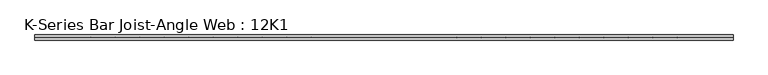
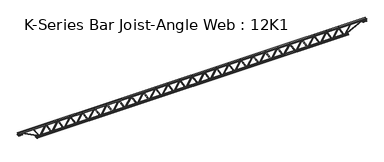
"""IFC4 building model written with IfcOpenShell, lengths in millimetres: beam geometry, K-Series Bar Joist-Angle Web : 12K1."""

from ifc_helpers import new_model, si_unit, frame, origin, place, context, project, spatial, polyline, outline, extrude, faceted_brep, source, transform, mapped, element, save


def k_series_bar_joist_angle_web_12k1_d835311e(model_context):
    return source(origin(), model_context, "Body", "SolidModel", [
        extrude(outline(polyline([(-4.7625, 4.7625), (-4.7625, 0.0), (-17.4625, 0.0), (-17.4625, 4.7625), (-4.7625, 4.7625)])), frame((3963.2177137, 0.0, -114.3), z_axis=(-0.49928484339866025, 0.0, 0.866437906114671), x_axis=(0.0, -1.0, 0.0)), (0.0, 0.0, 1.0), 263.8388722),
        extrude(outline(polyline([(-149.225, 3995.19775), (-130.175, 3995.19775), (-130.175, 3994.3522551), (149.225, 3833.3480051), (149.225, 3815.1435), (130.175, 3815.1435), (130.175, 3822.3389949), (-149.225, 3983.3432449), (-149.225, 3995.19775)])), frame((0.0, 0.0, 0.0), z_axis=(0.0, 1.0, 0.0), x_axis=(0.0, 0.0, 1.0)), (0.0, 0.0, 1.0), 4.7625),
        faceted_brep([(3647.78925, 0.0, -130.175), (3647.78925, 0.0, -149.225), (3647.78925, -4.7625, -149.225), (3647.78925, -4.7625, -130.175), (3648.6347449, 0.0, -130.175), (3809.6389949, 0.0, 149.225), (3827.8435, 0.0, 149.225), (3827.8435, 0.0, 130.175), (3820.6480051, 0.0, 130.175), (3659.6437551, 0.0, -149.225), (3659.6437551, -4.7625, -149.225), (3679.7692863, -4.7625, -114.3), (3675.6428758, -4.7625, -111.9221559), (3807.3736258, -4.7625, 116.6778441), (3811.5000363, -4.7625, 114.3), (3820.6480051, -4.7625, 130.175), (3827.8435, -4.7625, 130.175), (3827.8435, -4.7625, 149.225), (3809.6389949, -4.7625, 149.225), (3648.6347449, -4.7625, -130.175), (3811.5000363, -17.4625, 114.3), (3679.7692863, -17.4625, -114.3), (3675.6428758, -17.4625, -111.9221559), (3807.3736258, -17.4625, 116.6778441)], [[[0, 1, 2, 3]], [[1, 0, 4, 5, 6, 7, 8, 9]], [[2, 1, 9, 10]], [[3, 2, 10, 11, 12, 13, 14, 15, 16, 17, 18, 19]], [[0, 3, 19, 4]], [[9, 8, 15, 14, 20, 21, 11, 10]], [[5, 4, 19, 18]], [[7, 6, 17, 16]], [[8, 7, 16, 15]], [[6, 5, 18, 17]], [[21, 22, 12, 11]], [[20, 14, 13, 23]], [[22, 21, 20, 23]], [[12, 22, 23, 13]]]),
        extrude(outline(polyline([(-4.7625, 4.7625), (-4.7625, 0.0), (-17.4625, 0.0), (-17.4625, 4.7625), (-4.7625, 4.7625)])), frame((3615.8092137, 0.0, -114.3), z_axis=(-0.49928484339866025, 0.0, 0.866437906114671), x_axis=(0.0, -1.0, 0.0)), (0.0, 0.0, 1.0), 263.8388722),
        extrude(outline(polyline([(-149.225, 3647.78925), (-130.175, 3647.78925), (-130.175, 3646.9437551), (149.225, 3485.9395051), (149.225, 3467.735), (130.175, 3467.735), (130.175, 3474.9304949), (-149.225, 3635.9347449), (-149.225, 3647.78925)])), frame((0.0, 0.0, 0.0), z_axis=(0.0, 1.0, 0.0), x_axis=(0.0, 0.0, 1.0)), (0.0, 0.0, 1.0), 4.7625),
        faceted_brep([(3300.38075, 0.0, -130.175), (3300.38075, 0.0, -149.225), (3300.38075, -4.7625, -149.225), (3300.38075, -4.7625, -130.175), (3301.2262449, 0.0, -130.175), (3462.2304949, 0.0, 149.225), (3480.435, 0.0, 149.225), (3480.435, 0.0, 130.175), (3473.2395051, 0.0, 130.175), (3312.2352551, 0.0, -149.225), (3312.2352551, -4.7625, -149.225), (3332.3607863, -4.7625, -114.3), (3328.2343758, -4.7625, -111.9221559), (3459.9651258, -4.7625, 116.6778441), (3464.0915363, -4.7625, 114.3), (3473.2395051, -4.7625, 130.175), (3480.435, -4.7625, 130.175), (3480.435, -4.7625, 149.225), (3462.2304949, -4.7625, 149.225), (3301.2262449, -4.7625, -130.175), (3464.0915363, -17.4625, 114.3), (3332.3607863, -17.4625, -114.3), (3328.2343758, -17.4625, -111.9221559), (3459.9651258, -17.4625, 116.6778441)], [[[0, 1, 2, 3]], [[1, 0, 4, 5, 6, 7, 8, 9]], [[2, 1, 9, 10]], [[3, 2, 10, 11, 12, 13, 14, 15, 16, 17, 18, 19]], [[0, 3, 19, 4]], [[9, 8, 15, 14, 20, 21, 11, 10]], [[5, 4, 19, 18]], [[7, 6, 17, 16]], [[8, 7, 16, 15]], [[6, 5, 18, 17]], [[21, 22, 12, 11]], [[20, 14, 13, 23]], [[22, 21, 20, 23]], [[12, 22, 23, 13]]]),
        extrude(outline(polyline([(-4.7625, 4.7625), (-4.7625, 0.0), (-17.4625, 0.0), (-17.4625, 4.7625), (-4.7625, 4.7625)])), frame((3268.4007137, 0.0, -114.3), z_axis=(-0.49928484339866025, 0.0, 0.866437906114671), x_axis=(0.0, -1.0, 0.0)), (0.0, 0.0, 1.0), 263.8388722),
        extrude(outline(polyline([(-149.225, 3300.38075), (-130.175, 3300.38075), (-130.175, 3299.5352551), (149.225, 3138.5310051), (149.225, 3120.3265), (130.175, 3120.3265), (130.175, 3127.5219949), (-149.225, 3288.5262449), (-149.225, 3300.38075)])), frame((0.0, 0.0, 0.0), z_axis=(0.0, 1.0, 0.0), x_axis=(0.0, 0.0, 1.0)), (0.0, 0.0, 1.0), 4.7625),
        faceted_brep([(2952.97225, 0.0, -130.175), (2952.97225, 0.0, -149.225), (2952.97225, -4.7625, -149.225), (2952.97225, -4.7625, -130.175), (2953.8177449, 0.0, -130.175), (3114.8219949, 0.0, 149.225), (3133.0265, 0.0, 149.225), (3133.0265, 0.0, 130.175), (3125.8310051, 0.0, 130.175), (2964.8267551, 0.0, -149.225), (2964.8267551, -4.7625, -149.225), (2984.9522863, -4.7625, -114.3), (2980.8258758, -4.7625, -111.9221559), (3112.5566258, -4.7625, 116.6778441), (3116.6830363, -4.7625, 114.3), (3125.8310051, -4.7625, 130.175), (3133.0265, -4.7625, 130.175), (3133.0265, -4.7625, 149.225), (3114.8219949, -4.7625, 149.225), (2953.8177449, -4.7625, -130.175), (3116.6830363, -17.4625, 114.3), (2984.9522863, -17.4625, -114.3), (2980.8258758, -17.4625, -111.9221559), (3112.5566258, -17.4625, 116.6778441)], [[[0, 1, 2, 3]], [[1, 0, 4, 5, 6, 7, 8, 9]], [[2, 1, 9, 10]], [[3, 2, 10, 11, 12, 13, 14, 15, 16, 17, 18, 19]], [[0, 3, 19, 4]], [[9, 8, 15, 14, 20, 21, 11, 10]], [[5, 4, 19, 18]], [[7, 6, 17, 16]], [[8, 7, 16, 15]], [[6, 5, 18, 17]], [[21, 22, 12, 11]], [[20, 14, 13, 23]], [[22, 21, 20, 23]], [[12, 22, 23, 13]]]),
        extrude(outline(polyline([(-4.7625, 4.7625), (-4.7625, 0.0), (-17.4625, 0.0), (-17.4625, 4.7625), (-4.7625, 4.7625)])), frame((2920.9922137, 0.0, -114.3), z_axis=(-0.49928484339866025, 0.0, 0.866437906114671), x_axis=(0.0, -1.0, 0.0)), (0.0, 0.0, 1.0), 263.8388722),
        extrude(outline(polyline([(-149.225, 2952.97225), (-130.175, 2952.97225), (-130.175, 2952.1267551), (149.225, 2791.1225051), (149.225, 2772.918), (130.175, 2772.918), (130.175, 2780.1134949), (-149.225, 2941.1177449), (-149.225, 2952.97225)])), frame((0.0, 0.0, 0.0), z_axis=(0.0, 1.0, 0.0), x_axis=(0.0, 0.0, 1.0)), (0.0, 0.0, 1.0), 4.7625),
        faceted_brep([(2605.56375, 0.0, -130.175), (2605.56375, 0.0, -149.225), (2605.56375, -4.7625, -149.225), (2605.56375, -4.7625, -130.175), (2606.4092449, 0.0, -130.175), (2767.4134949, 0.0, 149.225), (2785.618, 0.0, 149.225), (2785.618, 0.0, 130.175), (2778.4225051, 0.0, 130.175), (2617.4182551, 0.0, -149.225), (2617.4182551, -4.7625, -149.225), (2637.5437863, -4.7625, -114.3), (2633.4173758, -4.7625, -111.9221559), (2765.1481258, -4.7625, 116.6778441), (2769.2745363, -4.7625, 114.3), (2778.4225051, -4.7625, 130.175), (2785.618, -4.7625, 130.175), (2785.618, -4.7625, 149.225), (2767.4134949, -4.7625, 149.225), (2606.4092449, -4.7625, -130.175), (2769.2745363, -17.4625, 114.3), (2637.5437863, -17.4625, -114.3), (2633.4173758, -17.4625, -111.9221559), (2765.1481258, -17.4625, 116.6778441)], [[[0, 1, 2, 3]], [[1, 0, 4, 5, 6, 7, 8, 9]], [[2, 1, 9, 10]], [[3, 2, 10, 11, 12, 13, 14, 15, 16, 17, 18, 19]], [[0, 3, 19, 4]], [[9, 8, 15, 14, 20, 21, 11, 10]], [[5, 4, 19, 18]], [[7, 6, 17, 16]], [[8, 7, 16, 15]], [[6, 5, 18, 17]], [[21, 22, 12, 11]], [[20, 14, 13, 23]], [[22, 21, 20, 23]], [[12, 22, 23, 13]]]),
        extrude(outline(polyline([(-4.7625, 4.7625), (-4.7625, 0.0), (-17.4625, 0.0), (-17.4625, 4.7625), (-4.7625, 4.7625)])), frame((2573.5837137, 0.0, -114.3), z_axis=(-0.49928484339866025, 0.0, 0.866437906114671), x_axis=(0.0, -1.0, 0.0)), (0.0, 0.0, 1.0), 263.8388722),
        extrude(outline(polyline([(-149.225, 2605.56375), (-130.175, 2605.56375), (-130.175, 2604.7182551), (149.225, 2443.7140051), (149.225, 2425.5095), (130.175, 2425.5095), (130.175, 2432.7049949), (-149.225, 2593.7092449), (-149.225, 2605.56375)])), frame((0.0, 0.0, 0.0), z_axis=(0.0, 1.0, 0.0), x_axis=(0.0, 0.0, 1.0)), (0.0, 0.0, 1.0), 4.7625),
        faceted_brep([(2258.15525, 0.0, -130.175), (2258.15525, 0.0, -149.225), (2258.15525, -4.7625, -149.225), (2258.15525, -4.7625, -130.175), (2259.0007449, 0.0, -130.175), (2420.0049949, 0.0, 149.225), (2438.2095, 0.0, 149.225), (2438.2095, 0.0, 130.175), (2431.0140051, 0.0, 130.175), (2270.0097551, 0.0, -149.225), (2270.0097551, -4.7625, -149.225), (2290.1352863, -4.7625, -114.3), (2286.0088758, -4.7625, -111.9221559), (2417.7396258, -4.7625, 116.6778441), (2421.8660363, -4.7625, 114.3), (2431.0140051, -4.7625, 130.175), (2438.2095, -4.7625, 130.175), (2438.2095, -4.7625, 149.225), (2420.0049949, -4.7625, 149.225), (2259.0007449, -4.7625, -130.175), (2421.8660363, -17.4625, 114.3), (2290.1352863, -17.4625, -114.3), (2286.0088758, -17.4625, -111.9221559), (2417.7396258, -17.4625, 116.6778441)], [[[0, 1, 2, 3]], [[1, 0, 4, 5, 6, 7, 8, 9]], [[2, 1, 9, 10]], [[3, 2, 10, 11, 12, 13, 14, 15, 16, 17, 18, 19]], [[0, 3, 19, 4]], [[9, 8, 15, 14, 20, 21, 11, 10]], [[5, 4, 19, 18]], [[7, 6, 17, 16]], [[8, 7, 16, 15]], [[6, 5, 18, 17]], [[21, 22, 12, 11]], [[20, 14, 13, 23]], [[22, 21, 20, 23]], [[12, 22, 23, 13]]]),
        extrude(outline(polyline([(-4.7625, 4.7625), (-4.7625, 0.0), (-17.4625, 0.0), (-17.4625, 4.7625), (-4.7625, 4.7625)])), frame((2226.1752137, 0.0, -114.3), z_axis=(-0.49928484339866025, 0.0, 0.866437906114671), x_axis=(0.0, -1.0, 0.0)), (0.0, 0.0, 1.0), 263.8388722),
        extrude(outline(polyline([(-149.225, 2258.15525), (-130.175, 2258.15525), (-130.175, 2257.3097551), (149.225, 2096.3055051), (149.225, 2078.101), (130.175, 2078.101), (130.175, 2085.2964949), (-149.225, 2246.3007449), (-149.225, 2258.15525)])), frame((0.0, 0.0, 0.0), z_axis=(0.0, 1.0, 0.0), x_axis=(0.0, 0.0, 1.0)), (0.0, 0.0, 1.0), 4.7625),
        faceted_brep([(1910.74675, 0.0, -130.175), (1910.74675, 0.0, -149.225), (1910.74675, -4.7625, -149.225), (1910.74675, -4.7625, -130.175), (1911.5922449, 0.0, -130.175), (2072.5964949, 0.0, 149.225), (2090.801, 0.0, 149.225), (2090.801, 0.0, 130.175), (2083.6055051, 0.0, 130.175), (1922.6012551, 0.0, -149.225), (1922.6012551, -4.7625, -149.225), (1942.7267863, -4.7625, -114.3), (1938.6003758, -4.7625, -111.9221559), (2070.3311258, -4.7625, 116.6778441), (2074.4575363, -4.7625, 114.3), (2083.6055051, -4.7625, 130.175), (2090.801, -4.7625, 130.175), (2090.801, -4.7625, 149.225), (2072.5964949, -4.7625, 149.225), (1911.5922449, -4.7625, -130.175), (2074.4575363, -17.4625, 114.3), (1942.7267863, -17.4625, -114.3), (1938.6003758, -17.4625, -111.9221559), (2070.3311258, -17.4625, 116.6778441)], [[[0, 1, 2, 3]], [[1, 0, 4, 5, 6, 7, 8, 9]], [[2, 1, 9, 10]], [[3, 2, 10, 11, 12, 13, 14, 15, 16, 17, 18, 19]], [[0, 3, 19, 4]], [[9, 8, 15, 14, 20, 21, 11, 10]], [[5, 4, 19, 18]], [[7, 6, 17, 16]], [[8, 7, 16, 15]], [[6, 5, 18, 17]], [[21, 22, 12, 11]], [[20, 14, 13, 23]], [[22, 21, 20, 23]], [[12, 22, 23, 13]]]),
        extrude(outline(polyline([(-4.7625, 4.7625), (-4.7625, 0.0), (-17.4625, 0.0), (-17.4625, 4.7625), (-4.7625, 4.7625)])), frame((1878.7667137, 0.0, -114.3), z_axis=(-0.49928484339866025, 0.0, 0.866437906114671), x_axis=(0.0, -1.0, 0.0)), (0.0, 0.0, 1.0), 263.8388722),
        extrude(outline(polyline([(-149.225, 1910.74675), (-130.175, 1910.74675), (-130.175, 1909.9012551), (149.225, 1748.8970051), (149.225, 1730.6925), (130.175, 1730.6925), (130.175, 1737.8879949), (-149.225, 1898.8922449), (-149.225, 1910.74675)])), frame((0.0, 0.0, 0.0), z_axis=(0.0, 1.0, 0.0), x_axis=(0.0, 0.0, 1.0)), (0.0, 0.0, 1.0), 4.7625),
        faceted_brep([(1563.33825, 0.0, -130.175), (1563.33825, 0.0, -149.225), (1563.33825, -4.7625, -149.225), (1563.33825, -4.7625, -130.175), (1564.1837449, 0.0, -130.175), (1725.1879949, 0.0, 149.225), (1743.3925, 0.0, 149.225), (1743.3925, 0.0, 130.175), (1736.1970051, 0.0, 130.175), (1575.1927551, 0.0, -149.225), (1575.1927551, -4.7625, -149.225), (1595.3182863, -4.7625, -114.3), (1591.1918758, -4.7625, -111.9221559), (1722.9226258, -4.7625, 116.6778441), (1727.0490363, -4.7625, 114.3), (1736.1970051, -4.7625, 130.175), (1743.3925, -4.7625, 130.175), (1743.3925, -4.7625, 149.225), (1725.1879949, -4.7625, 149.225), (1564.1837449, -4.7625, -130.175), (1727.0490363, -17.4625, 114.3), (1595.3182863, -17.4625, -114.3), (1591.1918758, -17.4625, -111.9221559), (1722.9226258, -17.4625, 116.6778441)], [[[0, 1, 2, 3]], [[1, 0, 4, 5, 6, 7, 8, 9]], [[2, 1, 9, 10]], [[3, 2, 10, 11, 12, 13, 14, 15, 16, 17, 18, 19]], [[0, 3, 19, 4]], [[9, 8, 15, 14, 20, 21, 11, 10]], [[5, 4, 19, 18]], [[7, 6, 17, 16]], [[8, 7, 16, 15]], [[6, 5, 18, 17]], [[21, 22, 12, 11]], [[20, 14, 13, 23]], [[22, 21, 20, 23]], [[12, 22, 23, 13]]]),
        extrude(outline(polyline([(-4.7625, 4.7625), (-4.7625, 0.0), (-17.4625, 0.0), (-17.4625, 4.7625), (-4.7625, 4.7625)])), frame((1531.3582137, 0.0, -114.3), z_axis=(-0.49928484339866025, 0.0, 0.866437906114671), x_axis=(0.0, -1.0, 0.0)), (0.0, 0.0, 1.0), 263.8388722),
        extrude(outline(polyline([(-149.225, 1563.33825), (-130.175, 1563.33825), (-130.175, 1562.4927551), (149.225, 1401.4885051), (149.225, 1383.284), (130.175, 1383.284), (130.175, 1390.4794949), (-149.225, 1551.4837449), (-149.225, 1563.33825)])), frame((0.0, 0.0, 0.0), z_axis=(0.0, 1.0, 0.0), x_axis=(0.0, 0.0, 1.0)), (0.0, 0.0, 1.0), 4.7625),
        faceted_brep([(1215.92975, 0.0, -130.175), (1215.92975, 0.0, -149.225), (1215.92975, -4.7625, -149.225), (1215.92975, -4.7625, -130.175), (1216.7752449, 0.0, -130.175), (1377.7794949, 0.0, 149.225), (1395.984, 0.0, 149.225), (1395.984, 0.0, 130.175), (1388.7885051, 0.0, 130.175), (1227.7842551, 0.0, -149.225), (1227.7842551, -4.7625, -149.225), (1247.9097863, -4.7625, -114.3), (1243.7833758, -4.7625, -111.9221559), (1375.5141258, -4.7625, 116.6778441), (1379.6405363, -4.7625, 114.3), (1388.7885051, -4.7625, 130.175), (1395.984, -4.7625, 130.175), (1395.984, -4.7625, 149.225), (1377.7794949, -4.7625, 149.225), (1216.7752449, -4.7625, -130.175), (1379.6405363, -17.4625, 114.3), (1247.9097863, -17.4625, -114.3), (1243.7833758, -17.4625, -111.9221559), (1375.5141258, -17.4625, 116.6778441)], [[[0, 1, 2, 3]], [[1, 0, 4, 5, 6, 7, 8, 9]], [[2, 1, 9, 10]], [[3, 2, 10, 11, 12, 13, 14, 15, 16, 17, 18, 19]], [[0, 3, 19, 4]], [[9, 8, 15, 14, 20, 21, 11, 10]], [[5, 4, 19, 18]], [[7, 6, 17, 16]], [[8, 7, 16, 15]], [[6, 5, 18, 17]], [[21, 22, 12, 11]], [[20, 14, 13, 23]], [[22, 21, 20, 23]], [[12, 22, 23, 13]]]),
        extrude(outline(polyline([(-4.7625, 4.7625), (-4.7625, 0.0), (-17.4625, 0.0), (-17.4625, 4.7625), (-4.7625, 4.7625)])), frame((1183.9497137, 0.0, -114.3), z_axis=(-0.49928484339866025, 0.0, 0.866437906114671), x_axis=(0.0, -1.0, 0.0)), (0.0, 0.0, 1.0), 263.8388722),
        extrude(outline(polyline([(-149.225, 1215.92975), (-130.175, 1215.92975), (-130.175, 1215.0842551), (149.225, 1054.0800051), (149.225, 1035.8755), (130.175, 1035.8755), (130.175, 1043.0709949), (-149.225, 1204.0752449), (-149.225, 1215.92975)])), frame((0.0, 0.0, 0.0), z_axis=(0.0, 1.0, 0.0), x_axis=(0.0, 0.0, 1.0)), (0.0, 0.0, 1.0), 4.7625),
        faceted_brep([(868.52125, 0.0, -130.175), (868.52125, 0.0, -149.225), (868.52125, -4.7625, -149.225), (868.52125, -4.7625, -130.175), (869.3667449, 0.0, -130.175), (1030.3709949, 0.0, 149.225), (1048.5755, 0.0, 149.225), (1048.5755, 0.0, 130.175), (1041.3800051, 0.0, 130.175), (880.3757551, 0.0, -149.225), (880.3757551, -4.7625, -149.225), (900.5012863, -4.7625, -114.3), (896.3748758, -4.7625, -111.9221559), (1028.1056258, -4.7625, 116.6778441), (1032.2320363, -4.7625, 114.3), (1041.3800051, -4.7625, 130.175), (1048.5755, -4.7625, 130.175), (1048.5755, -4.7625, 149.225), (1030.3709949, -4.7625, 149.225), (869.3667449, -4.7625, -130.175), (1032.2320363, -17.4625, 114.3), (900.5012863, -17.4625, -114.3), (896.3748758, -17.4625, -111.9221559), (1028.1056258, -17.4625, 116.6778441)], [[[0, 1, 2, 3]], [[1, 0, 4, 5, 6, 7, 8, 9]], [[2, 1, 9, 10]], [[3, 2, 10, 11, 12, 13, 14, 15, 16, 17, 18, 19]], [[0, 3, 19, 4]], [[9, 8, 15, 14, 20, 21, 11, 10]], [[5, 4, 19, 18]], [[7, 6, 17, 16]], [[8, 7, 16, 15]], [[6, 5, 18, 17]], [[21, 22, 12, 11]], [[20, 14, 13, 23]], [[22, 21, 20, 23]], [[12, 22, 23, 13]]]),
        extrude(outline(polyline([(-4.7625, 4.7625), (-4.7625, 0.0), (-17.4625, 0.0), (-17.4625, 4.7625), (-4.7625, 4.7625)])), frame((836.5412137, 0.0, -114.3), z_axis=(-0.49928484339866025, 0.0, 0.866437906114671), x_axis=(0.0, -1.0, 0.0)), (0.0, 0.0, 1.0), 263.8388722),
        extrude(outline(polyline([(-149.225, 868.52125), (-130.175, 868.52125), (-130.175, 867.6757551), (149.225, 706.6715051), (149.225, 688.467), (130.175, 688.467), (130.175, 695.6624949), (-149.225, 856.6667449), (-149.225, 868.52125)])), frame((0.0, 0.0, 0.0), z_axis=(0.0, 1.0, 0.0), x_axis=(0.0, 0.0, 1.0)), (0.0, 0.0, 1.0), 4.7625),
        faceted_brep([(521.11275, 0.0, -130.175), (521.11275, 0.0, -149.225), (521.11275, -4.7625, -149.225), (521.11275, -4.7625, -130.175), (521.9582449, 0.0, -130.175), (682.9624949, 0.0, 149.225), (701.167, 0.0, 149.225), (701.167, 0.0, 130.175), (693.9715051, 0.0, 130.175), (532.9672551, 0.0, -149.225), (532.9672551, -4.7625, -149.225), (553.0927863, -4.7625, -114.3), (548.9663758, -4.7625, -111.9221559), (680.6971258, -4.7625, 116.6778441), (684.8235363, -4.7625, 114.3), (693.9715051, -4.7625, 130.175), (701.167, -4.7625, 130.175), (701.167, -4.7625, 149.225), (682.9624949, -4.7625, 149.225), (521.9582449, -4.7625, -130.175), (684.8235363, -17.4625, 114.3), (553.0927863, -17.4625, -114.3), (548.9663758, -17.4625, -111.9221559), (680.6971258, -17.4625, 116.6778441)], [[[0, 1, 2, 3]], [[1, 0, 4, 5, 6, 7, 8, 9]], [[2, 1, 9, 10]], [[3, 2, 10, 11, 12, 13, 14, 15, 16, 17, 18, 19]], [[0, 3, 19, 4]], [[9, 8, 15, 14, 20, 21, 11, 10]], [[5, 4, 19, 18]], [[7, 6, 17, 16]], [[8, 7, 16, 15]], [[6, 5, 18, 17]], [[21, 22, 12, 11]], [[20, 14, 13, 23]], [[22, 21, 20, 23]], [[12, 22, 23, 13]]]),
        extrude(outline(polyline([(-4.7625, 4.7625), (-4.7625, 0.0), (-17.4625, 0.0), (-17.4625, 4.7625), (-4.7625, 4.7625)])), frame((489.1327137, 0.0, -114.3), z_axis=(-0.49928484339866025, 0.0, 0.866437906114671), x_axis=(0.0, -1.0, 0.0)), (0.0, 0.0, 1.0), 263.8388722),
        extrude(outline(polyline([(-149.225, 521.11275), (-130.175, 521.11275), (-130.175, 520.2672551), (149.225, 359.2630051), (149.225, 341.0585), (130.175, 341.0585), (130.175, 348.2539949), (-149.225, 509.2582449), (-149.225, 521.11275)])), frame((0.0, 0.0, 0.0), z_axis=(0.0, 1.0, 0.0), x_axis=(0.0, 0.0, 1.0)), (0.0, 0.0, 1.0), 4.7625),
        faceted_brep([(173.70425, 0.0, -130.175), (173.70425, 0.0, -149.225), (173.70425, -4.7625, -149.225), (173.70425, -4.7625, -130.175), (174.5497449, 0.0, -130.175), (335.5539949, 0.0, 149.225), (353.7585, 0.0, 149.225), (353.7585, 0.0, 130.175), (346.5630051, 0.0, 130.175), (185.5587551, 0.0, -149.225), (185.5587551, -4.7625, -149.225), (205.6842863, -4.7625, -114.3), (201.5578758, -4.7625, -111.9221559), (333.2886258, -4.7625, 116.6778441), (337.4150363, -4.7625, 114.3), (346.5630051, -4.7625, 130.175), (353.7585, -4.7625, 130.175), (353.7585, -4.7625, 149.225), (335.5539949, -4.7625, 149.225), (174.5497449, -4.7625, -130.175), (337.4150363, -17.4625, 114.3), (205.6842863, -17.4625, -114.3), (201.5578758, -17.4625, -111.9221559), (333.2886258, -17.4625, 116.6778441)], [[[0, 1, 2, 3]], [[1, 0, 4, 5, 6, 7, 8, 9]], [[2, 1, 9, 10]], [[3, 2, 10, 11, 12, 13, 14, 15, 16, 17, 18, 19]], [[0, 3, 19, 4]], [[9, 8, 15, 14, 20, 21, 11, 10]], [[5, 4, 19, 18]], [[7, 6, 17, 16]], [[8, 7, 16, 15]], [[6, 5, 18, 17]], [[21, 22, 12, 11]], [[20, 14, 13, 23]], [[22, 21, 20, 23]], [[12, 22, 23, 13]]]),
        extrude(outline(polyline([(-4.7625, 4.7625), (-4.7625, 0.0), (-17.4625, 0.0), (-17.4625, 4.7625), (-4.7625, 4.7625)])), frame((141.7242137, 0.0, -114.3), z_axis=(-0.49928484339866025, 0.0, 0.866437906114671), x_axis=(0.0, -1.0, 0.0)), (0.0, 0.0, 1.0), 263.8388722),
        extrude(outline(polyline([(-149.225, 173.70425), (-130.175, 173.70425), (-130.175, 172.8587551), (149.225, 11.8545051), (149.225, -6.35), (130.175, -6.35), (130.175, 0.8454949), (-149.225, 161.8497449), (-149.225, 173.70425)])), frame((0.0, 0.0, 0.0), z_axis=(0.0, 1.0, 0.0), x_axis=(0.0, 0.0, 1.0)), (0.0, 0.0, 1.0), 4.7625),
        faceted_brep([(-173.70425, 0.0, -130.175), (-173.70425, 0.0, -149.225), (-173.70425, -4.7625, -149.225), (-173.70425, -4.7625, -130.175), (-172.8587551, 0.0, -130.175), (-11.8545051, 0.0, 149.225), (6.35, 0.0, 149.225), (6.35, 0.0, 130.175), (-0.8454949, 0.0, 130.175), (-161.8497449, 0.0, -149.225), (-161.8497449, -4.7625, -149.225), (-141.7242137, -4.7625, -114.3), (-145.8506242, -4.7625, -111.9221559), (-14.1198742, -4.7625, 116.6778441), (-9.9934637, -4.7625, 114.3), (-0.8454949, -4.7625, 130.175), (6.35, -4.7625, 130.175), (6.35, -4.7625, 149.225), (-11.8545051, -4.7625, 149.225), (-172.8587551, -4.7625, -130.175), (-9.9934637, -17.4625, 114.3), (-141.7242137, -17.4625, -114.3), (-145.8506242, -17.4625, -111.9221559), (-14.1198742, -17.4625, 116.6778441)], [[[0, 1, 2, 3]], [[1, 0, 4, 5, 6, 7, 8, 9]], [[2, 1, 9, 10]], [[3, 2, 10, 11, 12, 13, 14, 15, 16, 17, 18, 19]], [[0, 3, 19, 4]], [[9, 8, 15, 14, 20, 21, 11, 10]], [[5, 4, 19, 18]], [[7, 6, 17, 16]], [[8, 7, 16, 15]], [[6, 5, 18, 17]], [[21, 22, 12, 11]], [[20, 14, 13, 23]], [[22, 21, 20, 23]], [[12, 22, 23, 13]]]),
        extrude(outline(polyline([(-4.7625, 4.7625), (-4.7625, 0.0), (-17.4625, 0.0), (-17.4625, 4.7625), (-4.7625, 4.7625)])), frame((-205.6842863, 0.0, -114.3), z_axis=(-0.49928484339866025, 0.0, 0.866437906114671), x_axis=(0.0, -1.0, 0.0)), (0.0, 0.0, 1.0), 263.8388722),
        extrude(outline(polyline([(-149.225, -173.70425), (-130.175, -173.70425), (-130.175, -174.5497449), (149.225, -335.5539949), (149.225, -353.7585), (130.175, -353.7585), (130.175, -346.5630051), (-149.225, -185.5587551), (-149.225, -173.70425)])), frame((0.0, 0.0, 0.0), z_axis=(0.0, 1.0, 0.0), x_axis=(0.0, 0.0, 1.0)), (0.0, 0.0, 1.0), 4.7625),
        faceted_brep([(-521.11275, 0.0, -130.175), (-521.11275, 0.0, -149.225), (-521.11275, -4.7625, -149.225), (-521.11275, -4.7625, -130.175), (-520.2672551, 0.0, -130.175), (-359.2630051, 0.0, 149.225), (-341.0585, 0.0, 149.225), (-341.0585, 0.0, 130.175), (-348.2539949, 0.0, 130.175), (-509.2582449, 0.0, -149.225), (-509.2582449, -4.7625, -149.225), (-489.1327137, -4.7625, -114.3), (-493.2591242, -4.7625, -111.9221559), (-361.5283742, -4.7625, 116.6778441), (-357.4019637, -4.7625, 114.3), (-348.2539949, -4.7625, 130.175), (-341.0585, -4.7625, 130.175), (-341.0585, -4.7625, 149.225), (-359.2630051, -4.7625, 149.225), (-520.2672551, -4.7625, -130.175), (-357.4019637, -17.4625, 114.3), (-489.1327137, -17.4625, -114.3), (-493.2591242, -17.4625, -111.9221559), (-361.5283742, -17.4625, 116.6778441)], [[[0, 1, 2, 3]], [[1, 0, 4, 5, 6, 7, 8, 9]], [[2, 1, 9, 10]], [[3, 2, 10, 11, 12, 13, 14, 15, 16, 17, 18, 19]], [[0, 3, 19, 4]], [[9, 8, 15, 14, 20, 21, 11, 10]], [[5, 4, 19, 18]], [[7, 6, 17, 16]], [[8, 7, 16, 15]], [[6, 5, 18, 17]], [[21, 22, 12, 11]], [[20, 14, 13, 23]], [[22, 21, 20, 23]], [[12, 22, 23, 13]]]),
        extrude(outline(polyline([(-4.7625, 4.7625), (-4.7625, 0.0), (-17.4625, 0.0), (-17.4625, 4.7625), (-4.7625, 4.7625)])), frame((-553.0927863, 0.0, -114.3), z_axis=(-0.49928484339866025, 0.0, 0.866437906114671), x_axis=(0.0, -1.0, 0.0)), (0.0, 0.0, 1.0), 263.8388722),
        extrude(outline(polyline([(-149.225, -521.11275), (-130.175, -521.11275), (-130.175, -521.9582449), (149.225, -682.9624949), (149.225, -701.167), (130.175, -701.167), (130.175, -693.9715051), (-149.225, -532.9672551), (-149.225, -521.11275)])), frame((0.0, 0.0, 0.0), z_axis=(0.0, 1.0, 0.0), x_axis=(0.0, 0.0, 1.0)), (0.0, 0.0, 1.0), 4.7625),
        faceted_brep([(-868.52125, 0.0, -130.175), (-868.52125, 0.0, -149.225), (-868.52125, -4.7625, -149.225), (-868.52125, -4.7625, -130.175), (-867.6757551, 0.0, -130.175), (-706.6715051, 0.0, 149.225), (-688.467, 0.0, 149.225), (-688.467, 0.0, 130.175), (-695.6624949, 0.0, 130.175), (-856.6667449, 0.0, -149.225), (-856.6667449, -4.7625, -149.225), (-836.5412137, -4.7625, -114.3), (-840.6676242, -4.7625, -111.9221559), (-708.9368742, -4.7625, 116.6778441), (-704.8104637, -4.7625, 114.3), (-695.6624949, -4.7625, 130.175), (-688.467, -4.7625, 130.175), (-688.467, -4.7625, 149.225), (-706.6715051, -4.7625, 149.225), (-867.6757551, -4.7625, -130.175), (-704.8104637, -17.4625, 114.3), (-836.5412137, -17.4625, -114.3), (-840.6676242, -17.4625, -111.9221559), (-708.9368742, -17.4625, 116.6778441)], [[[0, 1, 2, 3]], [[1, 0, 4, 5, 6, 7, 8, 9]], [[2, 1, 9, 10]], [[3, 2, 10, 11, 12, 13, 14, 15, 16, 17, 18, 19]], [[0, 3, 19, 4]], [[9, 8, 15, 14, 20, 21, 11, 10]], [[5, 4, 19, 18]], [[7, 6, 17, 16]], [[8, 7, 16, 15]], [[6, 5, 18, 17]], [[21, 22, 12, 11]], [[20, 14, 13, 23]], [[22, 21, 20, 23]], [[12, 22, 23, 13]]]),
        extrude(outline(polyline([(-4.7625, 4.7625), (-4.7625, 0.0), (-17.4625, 0.0), (-17.4625, 4.7625), (-4.7625, 4.7625)])), frame((-900.5012863, 0.0, -114.3), z_axis=(-0.49928484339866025, 0.0, 0.866437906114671), x_axis=(0.0, -1.0, 0.0)), (0.0, 0.0, 1.0), 263.8388722),
        extrude(outline(polyline([(-149.225, -868.52125), (-130.175, -868.52125), (-130.175, -869.3667449), (149.225, -1030.3709949), (149.225, -1048.5755), (130.175, -1048.5755), (130.175, -1041.3800051), (-149.225, -880.3757551), (-149.225, -868.52125)])), frame((0.0, 0.0, 0.0), z_axis=(0.0, 1.0, 0.0), x_axis=(0.0, 0.0, 1.0)), (0.0, 0.0, 1.0), 4.7625),
        faceted_brep([(-1215.92975, 0.0, -130.175), (-1215.92975, 0.0, -149.225), (-1215.92975, -4.7625, -149.225), (-1215.92975, -4.7625, -130.175), (-1215.0842551, 0.0, -130.175), (-1054.0800051, 0.0, 149.225), (-1035.8755, 0.0, 149.225), (-1035.8755, 0.0, 130.175), (-1043.0709949, 0.0, 130.175), (-1204.0752449, 0.0, -149.225), (-1204.0752449, -4.7625, -149.225), (-1183.9497137, -4.7625, -114.3), (-1188.0761242, -4.7625, -111.9221559), (-1056.3453742, -4.7625, 116.6778441), (-1052.2189637, -4.7625, 114.3), (-1043.0709949, -4.7625, 130.175), (-1035.8755, -4.7625, 130.175), (-1035.8755, -4.7625, 149.225), (-1054.0800051, -4.7625, 149.225), (-1215.0842551, -4.7625, -130.175), (-1052.2189637, -17.4625, 114.3), (-1183.9497137, -17.4625, -114.3), (-1188.0761242, -17.4625, -111.9221559), (-1056.3453742, -17.4625, 116.6778441)], [[[0, 1, 2, 3]], [[1, 0, 4, 5, 6, 7, 8, 9]], [[2, 1, 9, 10]], [[3, 2, 10, 11, 12, 13, 14, 15, 16, 17, 18, 19]], [[0, 3, 19, 4]], [[9, 8, 15, 14, 20, 21, 11, 10]], [[5, 4, 19, 18]], [[7, 6, 17, 16]], [[8, 7, 16, 15]], [[6, 5, 18, 17]], [[21, 22, 12, 11]], [[20, 14, 13, 23]], [[22, 21, 20, 23]], [[12, 22, 23, 13]]]),
        extrude(outline(polyline([(-4.7625, 4.7625), (-4.7625, 0.0), (-17.4625, 0.0), (-17.4625, 4.7625), (-4.7625, 4.7625)])), frame((-1247.9097863, 0.0, -114.3), z_axis=(-0.49928484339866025, 0.0, 0.866437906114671), x_axis=(0.0, -1.0, 0.0)), (0.0, 0.0, 1.0), 263.8388722),
        extrude(outline(polyline([(-149.225, -1215.92975), (-130.175, -1215.92975), (-130.175, -1216.7752449), (149.225, -1377.7794949), (149.225, -1395.984), (130.175, -1395.984), (130.175, -1388.7885051), (-149.225, -1227.7842551), (-149.225, -1215.92975)])), frame((0.0, 0.0, 0.0), z_axis=(0.0, 1.0, 0.0), x_axis=(0.0, 0.0, 1.0)), (0.0, 0.0, 1.0), 4.7625),
        faceted_brep([(-1563.33825, 0.0, -130.175), (-1563.33825, 0.0, -149.225), (-1563.33825, -4.7625, -149.225), (-1563.33825, -4.7625, -130.175), (-1562.4927551, 0.0, -130.175), (-1401.4885051, 0.0, 149.225), (-1383.284, 0.0, 149.225), (-1383.284, 0.0, 130.175), (-1390.4794949, 0.0, 130.175), (-1551.4837449, 0.0, -149.225), (-1551.4837449, -4.7625, -149.225), (-1531.3582137, -4.7625, -114.3), (-1535.4846242, -4.7625, -111.9221559), (-1403.7538742, -4.7625, 116.6778441), (-1399.6274637, -4.7625, 114.3), (-1390.4794949, -4.7625, 130.175), (-1383.284, -4.7625, 130.175), (-1383.284, -4.7625, 149.225), (-1401.4885051, -4.7625, 149.225), (-1562.4927551, -4.7625, -130.175), (-1399.6274637, -17.4625, 114.3), (-1531.3582137, -17.4625, -114.3), (-1535.4846242, -17.4625, -111.9221559), (-1403.7538742, -17.4625, 116.6778441)], [[[0, 1, 2, 3]], [[1, 0, 4, 5, 6, 7, 8, 9]], [[2, 1, 9, 10]], [[3, 2, 10, 11, 12, 13, 14, 15, 16, 17, 18, 19]], [[0, 3, 19, 4]], [[9, 8, 15, 14, 20, 21, 11, 10]], [[5, 4, 19, 18]], [[7, 6, 17, 16]], [[8, 7, 16, 15]], [[6, 5, 18, 17]], [[21, 22, 12, 11]], [[20, 14, 13, 23]], [[22, 21, 20, 23]], [[12, 22, 23, 13]]]),
        extrude(outline(polyline([(-4.7625, 4.7625), (-4.7625, 0.0), (-17.4625, 0.0), (-17.4625, 4.7625), (-4.7625, 4.7625)])), frame((-1595.3182863, 0.0, -114.3), z_axis=(-0.49928484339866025, 0.0, 0.866437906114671), x_axis=(0.0, -1.0, 0.0)), (0.0, 0.0, 1.0), 263.8388722),
        extrude(outline(polyline([(-149.225, -1563.33825), (-130.175, -1563.33825), (-130.175, -1564.1837449), (149.225, -1725.1879949), (149.225, -1743.3925), (130.175, -1743.3925), (130.175, -1736.1970051), (-149.225, -1575.1927551), (-149.225, -1563.33825)])), frame((0.0, 0.0, 0.0), z_axis=(0.0, 1.0, 0.0), x_axis=(0.0, 0.0, 1.0)), (0.0, 0.0, 1.0), 4.7625),
        faceted_brep([(-1910.74675, 0.0, -130.175), (-1910.74675, 0.0, -149.225), (-1910.74675, -4.7625, -149.225), (-1910.74675, -4.7625, -130.175), (-1909.9012551, 0.0, -130.175), (-1748.8970051, 0.0, 149.225), (-1730.6925, 0.0, 149.225), (-1730.6925, 0.0, 130.175), (-1737.8879949, 0.0, 130.175), (-1898.8922449, 0.0, -149.225), (-1898.8922449, -4.7625, -149.225), (-1878.7667137, -4.7625, -114.3), (-1882.8931242, -4.7625, -111.9221559), (-1751.1623742, -4.7625, 116.6778441), (-1747.0359637, -4.7625, 114.3), (-1737.8879949, -4.7625, 130.175), (-1730.6925, -4.7625, 130.175), (-1730.6925, -4.7625, 149.225), (-1748.8970051, -4.7625, 149.225), (-1909.9012551, -4.7625, -130.175), (-1747.0359637, -17.4625, 114.3), (-1878.7667137, -17.4625, -114.3), (-1882.8931242, -17.4625, -111.9221559), (-1751.1623742, -17.4625, 116.6778441)], [[[0, 1, 2, 3]], [[1, 0, 4, 5, 6, 7, 8, 9]], [[2, 1, 9, 10]], [[3, 2, 10, 11, 12, 13, 14, 15, 16, 17, 18, 19]], [[0, 3, 19, 4]], [[9, 8, 15, 14, 20, 21, 11, 10]], [[5, 4, 19, 18]], [[7, 6, 17, 16]], [[8, 7, 16, 15]], [[6, 5, 18, 17]], [[21, 22, 12, 11]], [[20, 14, 13, 23]], [[22, 21, 20, 23]], [[12, 22, 23, 13]]]),
        extrude(outline(polyline([(-4.7625, 4.7625), (-4.7625, 0.0), (-17.4625, 0.0), (-17.4625, 4.7625), (-4.7625, 4.7625)])), frame((-1942.7267863, 0.0, -114.3), z_axis=(-0.49928484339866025, 0.0, 0.866437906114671), x_axis=(0.0, -1.0, 0.0)), (0.0, 0.0, 1.0), 263.8388722),
        extrude(outline(polyline([(-149.225, -1910.74675), (-130.175, -1910.74675), (-130.175, -1911.5922449), (149.225, -2072.5964949), (149.225, -2090.801), (130.175, -2090.801), (130.175, -2083.6055051), (-149.225, -1922.6012551), (-149.225, -1910.74675)])), frame((0.0, 0.0, 0.0), z_axis=(0.0, 1.0, 0.0), x_axis=(0.0, 0.0, 1.0)), (0.0, 0.0, 1.0), 4.7625),
        faceted_brep([(-2258.15525, 0.0, -130.175), (-2258.15525, 0.0, -149.225), (-2258.15525, -4.7625, -149.225), (-2258.15525, -4.7625, -130.175), (-2257.3097551, 0.0, -130.175), (-2096.3055051, 0.0, 149.225), (-2078.101, 0.0, 149.225), (-2078.101, 0.0, 130.175), (-2085.2964949, 0.0, 130.175), (-2246.3007449, 0.0, -149.225), (-2246.3007449, -4.7625, -149.225), (-2226.1752137, -4.7625, -114.3), (-2230.3016242, -4.7625, -111.9221559), (-2098.5708742, -4.7625, 116.6778441), (-2094.4444637, -4.7625, 114.3), (-2085.2964949, -4.7625, 130.175), (-2078.101, -4.7625, 130.175), (-2078.101, -4.7625, 149.225), (-2096.3055051, -4.7625, 149.225), (-2257.3097551, -4.7625, -130.175), (-2094.4444637, -17.4625, 114.3), (-2226.1752137, -17.4625, -114.3), (-2230.3016242, -17.4625, -111.9221559), (-2098.5708742, -17.4625, 116.6778441)], [[[0, 1, 2, 3]], [[1, 0, 4, 5, 6, 7, 8, 9]], [[2, 1, 9, 10]], [[3, 2, 10, 11, 12, 13, 14, 15, 16, 17, 18, 19]], [[0, 3, 19, 4]], [[9, 8, 15, 14, 20, 21, 11, 10]], [[5, 4, 19, 18]], [[7, 6, 17, 16]], [[8, 7, 16, 15]], [[6, 5, 18, 17]], [[21, 22, 12, 11]], [[20, 14, 13, 23]], [[22, 21, 20, 23]], [[12, 22, 23, 13]]]),
        extrude(outline(polyline([(-4.7625, 4.7625), (-4.7625, 0.0), (-17.4625, 0.0), (-17.4625, 4.7625), (-4.7625, 4.7625)])), frame((-2290.1352863, 0.0, -114.3), z_axis=(-0.49928484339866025, 0.0, 0.866437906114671), x_axis=(0.0, -1.0, 0.0)), (0.0, 0.0, 1.0), 263.8388722),
        extrude(outline(polyline([(-149.225, -2258.15525), (-130.175, -2258.15525), (-130.175, -2259.0007449), (149.225, -2420.0049949), (149.225, -2438.2095), (130.175, -2438.2095), (130.175, -2431.0140051), (-149.225, -2270.0097551), (-149.225, -2258.15525)])), frame((0.0, 0.0, 0.0), z_axis=(0.0, 1.0, 0.0), x_axis=(0.0, 0.0, 1.0)), (0.0, 0.0, 1.0), 4.7625),
        faceted_brep([(-2605.56375, 0.0, -130.175), (-2605.56375, 0.0, -149.225), (-2605.56375, -4.7625, -149.225), (-2605.56375, -4.7625, -130.175), (-2604.7182551, 0.0, -130.175), (-2443.7140051, 0.0, 149.225), (-2425.5095, 0.0, 149.225), (-2425.5095, 0.0, 130.175), (-2432.7049949, 0.0, 130.175), (-2593.7092449, 0.0, -149.225), (-2593.7092449, -4.7625, -149.225), (-2573.5837137, -4.7625, -114.3), (-2577.7101242, -4.7625, -111.9221559), (-2445.9793742, -4.7625, 116.6778441), (-2441.8529637, -4.7625, 114.3), (-2432.7049949, -4.7625, 130.175), (-2425.5095, -4.7625, 130.175), (-2425.5095, -4.7625, 149.225), (-2443.7140051, -4.7625, 149.225), (-2604.7182551, -4.7625, -130.175), (-2441.8529637, -17.4625, 114.3), (-2573.5837137, -17.4625, -114.3), (-2577.7101242, -17.4625, -111.9221559), (-2445.9793742, -17.4625, 116.6778441)], [[[0, 1, 2, 3]], [[1, 0, 4, 5, 6, 7, 8, 9]], [[2, 1, 9, 10]], [[3, 2, 10, 11, 12, 13, 14, 15, 16, 17, 18, 19]], [[0, 3, 19, 4]], [[9, 8, 15, 14, 20, 21, 11, 10]], [[5, 4, 19, 18]], [[7, 6, 17, 16]], [[8, 7, 16, 15]], [[6, 5, 18, 17]], [[21, 22, 12, 11]], [[20, 14, 13, 23]], [[22, 21, 20, 23]], [[12, 22, 23, 13]]]),
        extrude(outline(polyline([(-4.7625, 4.7625), (-4.7625, 0.0), (-17.4625, 0.0), (-17.4625, 4.7625), (-4.7625, 4.7625)])), frame((-2637.5437863, 0.0, -114.3), z_axis=(-0.49928484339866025, 0.0, 0.866437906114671), x_axis=(0.0, -1.0, 0.0)), (0.0, 0.0, 1.0), 263.8388722),
        extrude(outline(polyline([(-149.225, -2605.56375), (-130.175, -2605.56375), (-130.175, -2606.4092449), (149.225, -2767.4134949), (149.225, -2785.618), (130.175, -2785.618), (130.175, -2778.4225051), (-149.225, -2617.4182551), (-149.225, -2605.56375)])), frame((0.0, 0.0, 0.0), z_axis=(0.0, 1.0, 0.0), x_axis=(0.0, 0.0, 1.0)), (0.0, 0.0, 1.0), 4.7625),
        faceted_brep([(-2952.97225, 0.0, -130.175), (-2952.97225, 0.0, -149.225), (-2952.97225, -4.7625, -149.225), (-2952.97225, -4.7625, -130.175), (-2952.1267551, 0.0, -130.175), (-2791.1225051, 0.0, 149.225), (-2772.918, 0.0, 149.225), (-2772.918, 0.0, 130.175), (-2780.1134949, 0.0, 130.175), (-2941.1177449, 0.0, -149.225), (-2941.1177449, -4.7625, -149.225), (-2920.9922137, -4.7625, -114.3), (-2925.1186242, -4.7625, -111.9221559), (-2793.3878742, -4.7625, 116.6778441), (-2789.2614637, -4.7625, 114.3), (-2780.1134949, -4.7625, 130.175), (-2772.918, -4.7625, 130.175), (-2772.918, -4.7625, 149.225), (-2791.1225051, -4.7625, 149.225), (-2952.1267551, -4.7625, -130.175), (-2789.2614637, -17.4625, 114.3), (-2920.9922137, -17.4625, -114.3), (-2925.1186242, -17.4625, -111.9221559), (-2793.3878742, -17.4625, 116.6778441)], [[[0, 1, 2, 3]], [[1, 0, 4, 5, 6, 7, 8, 9]], [[2, 1, 9, 10]], [[3, 2, 10, 11, 12, 13, 14, 15, 16, 17, 18, 19]], [[0, 3, 19, 4]], [[9, 8, 15, 14, 20, 21, 11, 10]], [[5, 4, 19, 18]], [[7, 6, 17, 16]], [[8, 7, 16, 15]], [[6, 5, 18, 17]], [[21, 22, 12, 11]], [[20, 14, 13, 23]], [[22, 21, 20, 23]], [[12, 22, 23, 13]]]),
        extrude(outline(polyline([(-4.7625, 4.7625), (-4.7625, 0.0), (-17.4625, 0.0), (-17.4625, 4.7625), (-4.7625, 4.7625)])), frame((-2984.9522863, 0.0, -114.3), z_axis=(-0.49928484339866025, 0.0, 0.866437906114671), x_axis=(0.0, -1.0, 0.0)), (0.0, 0.0, 1.0), 263.8388722),
        extrude(outline(polyline([(-149.225, -2952.97225), (-130.175, -2952.97225), (-130.175, -2953.8177449), (149.225, -3114.8219949), (149.225, -3133.0265), (130.175, -3133.0265), (130.175, -3125.8310051), (-149.225, -2964.8267551), (-149.225, -2952.97225)])), frame((0.0, 0.0, 0.0), z_axis=(0.0, 1.0, 0.0), x_axis=(0.0, 0.0, 1.0)), (0.0, 0.0, 1.0), 4.7625),
        faceted_brep([(-3300.38075, 0.0, -130.175), (-3300.38075, 0.0, -149.225), (-3300.38075, -4.7625, -149.225), (-3300.38075, -4.7625, -130.175), (-3299.5352551, 0.0, -130.175), (-3138.5310051, 0.0, 149.225), (-3120.3265, 0.0, 149.225), (-3120.3265, 0.0, 130.175), (-3127.5219949, 0.0, 130.175), (-3288.5262449, 0.0, -149.225), (-3288.5262449, -4.7625, -149.225), (-3268.4007137, -4.7625, -114.3), (-3272.5271242, -4.7625, -111.9221559), (-3140.7963742, -4.7625, 116.6778441), (-3136.6699637, -4.7625, 114.3), (-3127.5219949, -4.7625, 130.175), (-3120.3265, -4.7625, 130.175), (-3120.3265, -4.7625, 149.225), (-3138.5310051, -4.7625, 149.225), (-3299.5352551, -4.7625, -130.175), (-3136.6699637, -17.4625, 114.3), (-3268.4007137, -17.4625, -114.3), (-3272.5271242, -17.4625, -111.9221559), (-3140.7963742, -17.4625, 116.6778441)], [[[0, 1, 2, 3]], [[1, 0, 4, 5, 6, 7, 8, 9]], [[2, 1, 9, 10]], [[3, 2, 10, 11, 12, 13, 14, 15, 16, 17, 18, 19]], [[0, 3, 19, 4]], [[9, 8, 15, 14, 20, 21, 11, 10]], [[5, 4, 19, 18]], [[7, 6, 17, 16]], [[8, 7, 16, 15]], [[6, 5, 18, 17]], [[21, 22, 12, 11]], [[20, 14, 13, 23]], [[22, 21, 20, 23]], [[12, 22, 23, 13]]]),
        extrude(outline(polyline([(-4.7625, 4.7625), (-4.7625, 0.0), (-17.4625, 0.0), (-17.4625, 4.7625), (-4.7625, 4.7625)])), frame((-3332.3607863, 0.0, -114.3), z_axis=(-0.49928484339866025, 0.0, 0.866437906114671), x_axis=(0.0, -1.0, 0.0)), (0.0, 0.0, 1.0), 263.8388722),
        extrude(outline(polyline([(-149.225, -3300.38075), (-130.175, -3300.38075), (-130.175, -3301.2262449), (149.225, -3462.2304949), (149.225, -3480.435), (130.175, -3480.435), (130.175, -3473.2395051), (-149.225, -3312.2352551), (-149.225, -3300.38075)])), frame((0.0, 0.0, 0.0), z_axis=(0.0, 1.0, 0.0), x_axis=(0.0, 0.0, 1.0)), (0.0, 0.0, 1.0), 4.7625),
        faceted_brep([(-3647.78925, 0.0, -130.175), (-3647.78925, 0.0, -149.225), (-3647.78925, -4.7625, -149.225), (-3647.78925, -4.7625, -130.175), (-3646.9437551, 0.0, -130.175), (-3485.9395051, 0.0, 149.225), (-3467.735, 0.0, 149.225), (-3467.735, 0.0, 130.175), (-3474.9304949, 0.0, 130.175), (-3635.9347449, 0.0, -149.225), (-3635.9347449, -4.7625, -149.225), (-3615.8092137, -4.7625, -114.3), (-3619.9356242, -4.7625, -111.9221559), (-3488.2048742, -4.7625, 116.6778441), (-3484.0784637, -4.7625, 114.3), (-3474.9304949, -4.7625, 130.175), (-3467.735, -4.7625, 130.175), (-3467.735, -4.7625, 149.225), (-3485.9395051, -4.7625, 149.225), (-3646.9437551, -4.7625, -130.175), (-3484.0784637, -17.4625, 114.3), (-3615.8092137, -17.4625, -114.3), (-3619.9356242, -17.4625, -111.9221559), (-3488.2048742, -17.4625, 116.6778441)], [[[0, 1, 2, 3]], [[1, 0, 4, 5, 6, 7, 8, 9]], [[2, 1, 9, 10]], [[3, 2, 10, 11, 12, 13, 14, 15, 16, 17, 18, 19]], [[0, 3, 19, 4]], [[9, 8, 15, 14, 20, 21, 11, 10]], [[5, 4, 19, 18]], [[7, 6, 17, 16]], [[8, 7, 16, 15]], [[6, 5, 18, 17]], [[21, 22, 12, 11]], [[20, 14, 13, 23]], [[22, 21, 20, 23]], [[12, 22, 23, 13]]]),
        extrude(outline(polyline([(-4.7625, 4.7625), (-4.7625, 0.0), (-17.4625, 0.0), (-17.4625, 4.7625), (-4.7625, 4.7625)])), frame((-3679.7692863, 0.0, -114.3), z_axis=(-0.49928484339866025, 0.0, 0.866437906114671), x_axis=(0.0, -1.0, 0.0)), (0.0, 0.0, 1.0), 263.8388722),
        extrude(outline(polyline([(-149.225, -3647.78925), (-130.175, -3647.78925), (-130.175, -3648.6347449), (149.225, -3809.6389949), (149.225, -3827.8435), (130.175, -3827.8435), (130.175, -3820.6480051), (-149.225, -3659.6437551), (-149.225, -3647.78925)])), frame((0.0, 0.0, 0.0), z_axis=(0.0, 1.0, 0.0), x_axis=(0.0, 0.0, 1.0)), (0.0, 0.0, 1.0), 4.7625),
        faceted_brep([(-3995.19775, 0.0, -130.175), (-3995.19775, 0.0, -149.225), (-3995.19775, -4.7625, -149.225), (-3995.19775, -4.7625, -130.175), (-3994.3522551, 0.0, -130.175), (-3833.3480051, 0.0, 149.225), (-3815.1435, 0.0, 149.225), (-3815.1435, 0.0, 130.175), (-3822.3389949, 0.0, 130.175), (-3983.3432449, 0.0, -149.225), (-3983.3432449, -4.7625, -149.225), (-3963.2177137, -4.7625, -114.3), (-3967.3441242, -4.7625, -111.9221559), (-3835.6133742, -4.7625, 116.6778441), (-3831.4869637, -4.7625, 114.3), (-3822.3389949, -4.7625, 130.175), (-3815.1435, -4.7625, 130.175), (-3815.1435, -4.7625, 149.225), (-3833.3480051, -4.7625, 149.225), (-3994.3522551, -4.7625, -130.175), (-3831.4869637, -17.4625, 114.3), (-3963.2177137, -17.4625, -114.3), (-3967.3441242, -17.4625, -111.9221559), (-3835.6133742, -17.4625, 116.6778441)], [[[0, 1, 2, 3]], [[1, 0, 4, 5, 6, 7, 8, 9]], [[2, 1, 9, 10]], [[3, 2, 10, 11, 12, 13, 14, 15, 16, 17, 18, 19]], [[0, 3, 19, 4]], [[9, 8, 15, 14, 20, 21, 11, 10]], [[5, 4, 19, 18]], [[7, 6, 17, 16]], [[8, 7, 16, 15]], [[6, 5, 18, 17]], [[21, 22, 12, 11]], [[20, 14, 13, 23]], [[22, 21, 20, 23]], [[12, 22, 23, 13]]]),
        extrude(outline(polyline([(-4.7625, 4.7625), (-4.7625, 0.0), (-17.4625, 0.0), (-17.4625, 4.7625), (-4.7625, 4.7625)])), frame((4310.6262137, 0.0, -114.3), z_axis=(-0.49928484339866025, 0.0, 0.866437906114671), x_axis=(0.0, -1.0, 0.0)), (0.0, 0.0, 1.0), 263.8388722),
        extrude(outline(polyline([(-149.225, 4342.60625), (-130.175, 4342.60625), (-130.175, 4341.7607551), (149.225, 4180.7565051), (149.225, 4162.552), (130.175, 4162.552), (130.175, 4169.7474949), (-149.225, 4330.7517449), (-149.225, 4342.60625)])), frame((0.0, 0.0, 0.0), z_axis=(0.0, 1.0, 0.0), x_axis=(0.0, 0.0, 1.0)), (0.0, 0.0, 1.0), 4.7625),
        faceted_brep([(3995.19775, 0.0, -130.175), (3995.19775, 0.0, -149.225), (3995.19775, -4.7625, -149.225), (3995.19775, -4.7625, -130.175), (3996.0432449, 0.0, -130.175), (4157.0474949, 0.0, 149.225), (4175.252, 0.0, 149.225), (4175.252, 0.0, 130.175), (4168.0565051, 0.0, 130.175), (4007.0522551, 0.0, -149.225), (4007.0522551, -4.7625, -149.225), (4027.1777863, -4.7625, -114.3), (4023.0513758, -4.7625, -111.9221559), (4154.7821258, -4.7625, 116.6778441), (4158.9085363, -4.7625, 114.3), (4168.0565051, -4.7625, 130.175), (4175.252, -4.7625, 130.175), (4175.252, -4.7625, 149.225), (4157.0474949, -4.7625, 149.225), (3996.0432449, -4.7625, -130.175), (4158.9085363, -17.4625, 114.3), (4027.1777863, -17.4625, -114.3), (4023.0513758, -17.4625, -111.9221559), (4154.7821258, -17.4625, 116.6778441)], [[[0, 1, 2, 3]], [[1, 0, 4, 5, 6, 7, 8, 9]], [[2, 1, 9, 10]], [[3, 2, 10, 11, 12, 13, 14, 15, 16, 17, 18, 19]], [[0, 3, 19, 4]], [[9, 8, 15, 14, 20, 21, 11, 10]], [[5, 4, 19, 18]], [[7, 6, 17, 16]], [[8, 7, 16, 15]], [[6, 5, 18, 17]], [[21, 22, 12, 11]], [[20, 14, 13, 23]], [[22, 21, 20, 23]], [[12, 22, 23, 13]]]),
        extrude(outline(polyline([(-4.7625, 4.7625), (-4.7625, 0.0), (-17.4625, 0.0), (-17.4625, 4.7625), (-4.7625, 4.7625)])), frame((-4027.1777863, 0.0, -114.3), z_axis=(-0.49928484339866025, 0.0, 0.866437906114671), x_axis=(0.0, -1.0, 0.0)), (0.0, 0.0, 1.0), 263.8388722),
        extrude(outline(polyline([(-149.225, -3995.19775), (-130.175, -3995.19775), (-130.175, -3996.0432449), (149.225, -4157.0474949), (149.225, -4175.252), (130.175, -4175.252), (130.175, -4168.0565051), (-149.225, -4007.0522551), (-149.225, -3995.19775)])), frame((0.0, 0.0, 0.0), z_axis=(0.0, 1.0, 0.0), x_axis=(0.0, 0.0, 1.0)), (0.0, 0.0, 1.0), 4.7625),
        faceted_brep([(-4342.60625, 0.0, -130.175), (-4342.60625, 0.0, -149.225), (-4342.60625, -4.7625, -149.225), (-4342.60625, -4.7625, -130.175), (-4341.7607551, 0.0, -130.175), (-4180.7565051, 0.0, 149.225), (-4162.552, 0.0, 149.225), (-4162.552, 0.0, 130.175), (-4169.7474949, 0.0, 130.175), (-4330.7517449, 0.0, -149.225), (-4330.7517449, -4.7625, -149.225), (-4310.6262137, -4.7625, -114.3), (-4314.7526242, -4.7625, -111.9221559), (-4183.0218742, -4.7625, 116.6778441), (-4178.8954637, -4.7625, 114.3), (-4169.7474949, -4.7625, 130.175), (-4162.552, -4.7625, 130.175), (-4162.552, -4.7625, 149.225), (-4180.7565051, -4.7625, 149.225), (-4341.7607551, -4.7625, -130.175), (-4178.8954637, -17.4625, 114.3), (-4310.6262137, -17.4625, -114.3), (-4314.7526242, -17.4625, -111.9221559), (-4183.0218742, -17.4625, 116.6778441)], [[[0, 1, 2, 3]], [[1, 0, 4, 5, 6, 7, 8, 9]], [[2, 1, 9, 10]], [[3, 2, 10, 11, 12, 13, 14, 15, 16, 17, 18, 19]], [[0, 3, 19, 4]], [[9, 8, 15, 14, 20, 21, 11, 10]], [[5, 4, 19, 18]], [[7, 6, 17, 16]], [[8, 7, 16, 15]], [[6, 5, 18, 17]], [[21, 22, 12, 11]], [[20, 14, 13, 23]], [[22, 21, 20, 23]], [[12, 22, 23, 13]]]),
        extrude(outline(polyline([(4.7625, 152.4), (36.5125, 152.4), (36.5125, 146.05), (11.1125, 146.05), (11.1125, 120.65), (4.7625, 120.65), (4.7625, 152.4)])), frame((-4952.20625, 0.0, 0.0), z_axis=(1.0, 0.0, 0.0), x_axis=(0.0, 1.0, 0.0)), (0.0, 0.0, 1.0), 9904.4125),
        extrude(outline(polyline([(-4.7625, 152.4), (-4.7625, 120.65), (-11.1125, 120.65), (-11.1125, 146.05), (-36.5125, 146.05), (-36.5125, 152.4), (-4.7625, 152.4)])), frame((-4952.20625, 0.0, 0.0), z_axis=(1.0, 0.0, 0.0), x_axis=(0.0, 1.0, 0.0)), (0.0, 0.0, 1.0), 9904.4125),
        extrude(outline(polyline([(-4.7625, 88.9), (-36.5125, 88.9), (-36.5125, 95.25), (-11.1125, 95.25), (-11.1125, 120.65), (-4.7625, 120.65), (-4.7625, 88.9)])), frame((-4952.20625, 0.0, 0.0), z_axis=(1.0, 0.0, 0.0), x_axis=(0.0, 1.0, 0.0)), (0.0, 0.0, 1.0), 101.6),
        extrude(outline(polyline([(36.5125, 88.9), (4.7625, 88.9), (4.7625, 120.65), (11.1125, 120.65), (11.1125, 95.25), (36.5125, 95.25), (36.5125, 88.9)])), frame((-4952.20625, 0.0, 0.0), z_axis=(1.0, 0.0, 0.0), x_axis=(0.0, 1.0, 0.0)), (0.0, 0.0, 1.0), 101.6),
        extrude(outline(polyline([(4.7625, 88.9), (4.7625, 120.65), (11.1125, 120.65), (11.1125, 95.25), (36.5125, 95.25), (36.5125, 88.9), (4.7625, 88.9)])), frame((4850.60625, 0.0, 0.0), z_axis=(1.0, 0.0, 0.0), x_axis=(0.0, 1.0, 0.0)), (0.0, 0.0, 1.0), 101.6),
        extrude(outline(polyline([(-4.7625, 88.9), (-36.5125, 88.9), (-36.5125, 95.25), (-11.1125, 95.25), (-11.1125, 120.65), (-4.7625, 120.65), (-4.7625, 88.9)])), frame((4850.60625, 0.0, 0.0), z_axis=(1.0, 0.0, 0.0), x_axis=(0.0, 1.0, 0.0)), (0.0, 0.0, 1.0), 101.6),
        extrude(outline(polyline([(4.7625, -152.4), (4.7625, -120.65), (11.1125, -120.65), (11.1125, -146.05), (36.5125, -146.05), (36.5125, -152.4), (4.7625, -152.4)])), frame((-4444.20625, 0.0, 0.0), z_axis=(1.0, 0.0, 0.0), x_axis=(0.0, 1.0, 0.0)), (0.0, 0.0, 1.0), 8888.4125),
        extrude(outline(polyline([(-4.7625, -152.4), (-36.5125, -152.4), (-36.5125, -146.05), (-11.1125, -146.05), (-11.1125, -120.65), (-4.7625, -120.65), (-4.7625, -152.4)])), frame((-4444.20625, 0.0, 0.0), z_axis=(1.0, 0.0, 0.0), x_axis=(0.0, 1.0, 0.0)), (0.0, 0.0, 1.0), 8888.4125),
        extrude(outline(polyline([(4.7625, 4.7625), (4.7625, -4.7625), (-4.7625, -4.7625), (-4.7625, 4.7625), (4.7625, 4.7625)])), frame((4342.60625, 0.0, -146.05), z_axis=(0.5457595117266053, 0.0, 0.8379418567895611), x_axis=(0.0, -1.0, 0.0)), (0.0, 0.0, 1.0), 318.2798399),
        extrude(outline(polyline([(4.7625, 4.7625), (4.7625, -4.7625), (-4.7625, -4.7625), (-4.7625, 4.7625), (4.7625, 4.7625)])), frame((-4342.60625, 0.0, -146.05), z_axis=(-0.5457595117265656, 0.0, 0.837941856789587), x_axis=(0.0, -1.0, 0.0)), (0.0, 0.0, 1.0), 318.2798399),
        extrude(outline(polyline([(0.0, -9.525), (0.0, 0.0), (573.7533355, 0.0), (573.7533355, -9.525), (0.0, -9.525)])), frame((4852.8200214, -4.7625, 116.4332925), z_axis=(-0.4648338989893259, 0.0, 0.8853979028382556), x_axis=(-0.8853979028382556, 0.0, -0.4648338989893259)), (0.0, 0.0, 1.0), 9.525),
        extrude(outline(polyline([(0.0, -9.525), (0.0, 0.0), (573.7533355, 0.0), (573.7533355, -9.525), (0.0, -9.525)])), frame((-4852.8200214, 4.7625, 116.4332925), z_axis=(0.46483389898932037, 0.0, 0.8853979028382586), x_axis=(0.8853979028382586, 0.0, -0.46483389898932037)), (0.0, 0.0, 1.0), 9.525),
    ])


if __name__ == "__main__":
    model = new_model("IFC4")
    model_context = context("Model", 3, world=origin())
    ifc_project = project(units=[si_unit("LENGTHUNIT", "METRE", prefix="MILLI")], contexts=[model_context])
    site = spatial("IfcSite", under=ifc_project)
    building = spatial("IfcBuilding", under=site)
    placement = place(None, origin())
    k_series_bar_joist_angle_web_12k1_shape = k_series_bar_joist_angle_web_12k1_d835311e(model_context)
    element("IfcBeam", 1, ObjectType="K-Series Bar Joist-Angle Web : 12K1", at=placement, inside=building, context=model_context, shape_type="MappedRepresentation", body=[
        mapped(k_series_bar_joist_angle_web_12k1_shape, transform((0.0, 0.0, 0.0), x_axis=(1.0, 0.0, 0.0), y_axis=(0.0, 1.0, 0.0), z_axis=(0.0, 0.0, 1.0))),
    ])
    save(model, "model.ifc")
